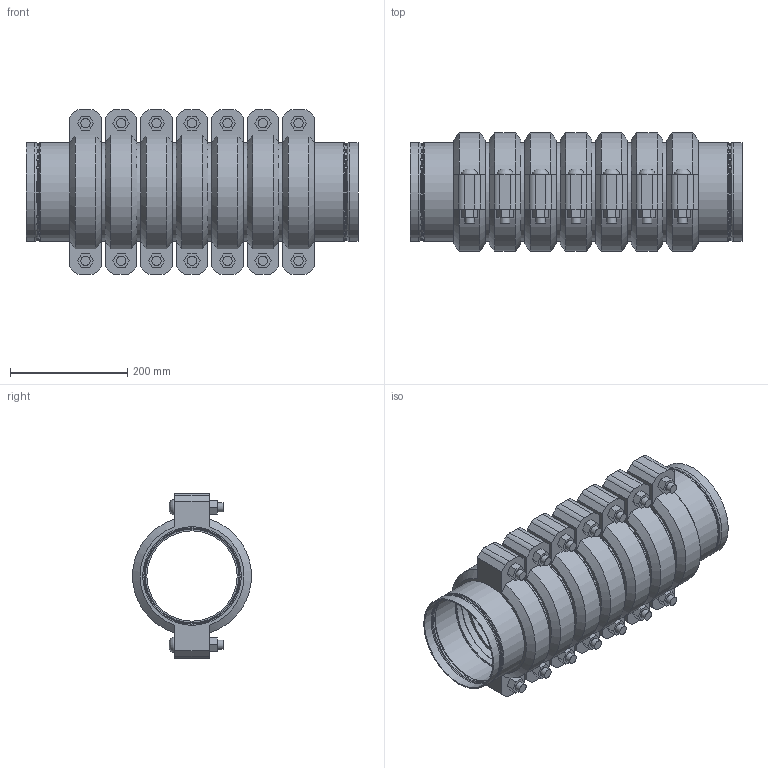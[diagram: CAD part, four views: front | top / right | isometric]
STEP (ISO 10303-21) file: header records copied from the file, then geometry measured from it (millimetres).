
FILE_DESCRIPTION(/* description */ ('VIC STRENGTHIN 100 EXPANSION JOINT 7 COUPLINGS COMPRESSED STYLE E155 (ST1)','CAx-IF Rec.Pracs.---Representation and Presentation of Product Manufacturing Information (PMI)---4.0---2014-10-13'),/* implementation_level */ '2;1');
FILE_NAME(/* name */ 'C:\Users\Vjadhav\AppData\Roaming\Autodesk\ApplicationPlugins\Victaulic.Temp\A926\Victaulic_SS-StrengThin 100_Expansion Joint_Compressed_7 Couplings_Style E155 (ST1)_6 (150).stp',/* time_stamp */ '2021-07-23T12:35:11+05:00',/* author */ ('kkamble'),/* organization */ ('Victaulic'),/* preprocessor_version */ 'ST-DEVELOPER v17.2',/* originating_system */ 'Autodesk Inventor 2019',/* authorisation */ '');
FILE_SCHEMA (('AP242_MANAGED_MODEL_BASED_3D_ENGINEERING_MIM_LF { 1 0 10303 442 1 1 4 }'));
Length unit declared in the file: inch
Products named in the file (4): E155-06.0; E494G-06.0; Nipple-06.0; 075-06.0
Assembly tree (15 placements, depth 2):
  E155-06.0
    E494G-06.0  x2
    Nipple-06.0  x6
    075-06.0  x7
Bounding box: 566.67 x 202.46 x 281.18 mm (x, y, z)
Volume: 6661512.9 mm3; surface area: 1431937.1 mm2
Topology: 15 solids, 29 shells, 511 faces, 1291 edges, 912 vertices
Faces by surface type: plane 286, cylinder 147, torus 32, cone 32, bspline 14
Full cylindrical faces by diameter (mm): 15.875 x28, 17.424 x14, 154.051 x6, 159.258 x2, 159.944 x2, 163.271 x2, 163.957 x14, 164.262 x6, 168.275 x31
Entity records: 3679 total; most frequent: DIRECTION 655, CARTESIAN_POINT 647, ORIENTED_EDGE 536, AXIS2_PLACEMENT_3D 279, EDGE_CURVE 268, VERTEX_POINT 193, CIRCLE 163, EDGE_LOOP 123
